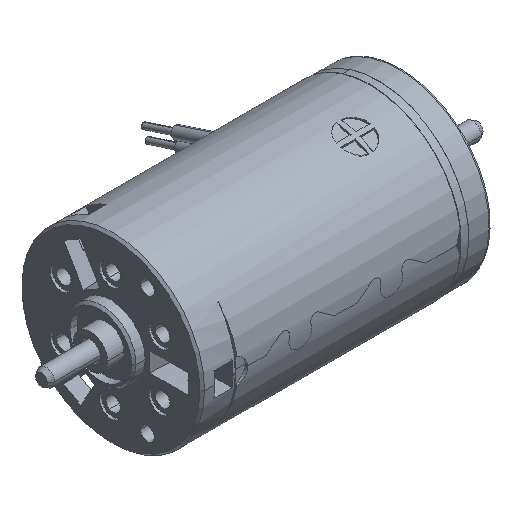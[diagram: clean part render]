
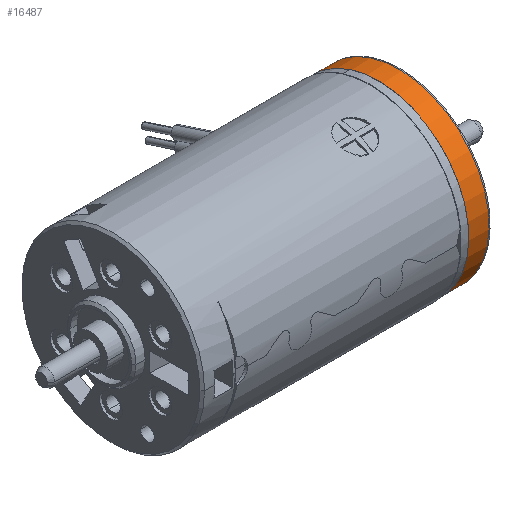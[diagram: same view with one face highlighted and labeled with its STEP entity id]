
A CAD part, isometric view. The second image highlights one B-rep face of the part: STEP entity #16487.
In plain terms, the highlighted cylindrical face has radius 7.95 mm (diameter 15.9 mm), a partial arc.
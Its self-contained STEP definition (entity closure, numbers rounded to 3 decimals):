
#4915=CARTESIAN_POINT('',(23.8,7.88,-1.05));
#4935=DIRECTION('',(-1.,0.,0.));
#4936=VECTOR('',#4935,1.705);
#4937=CARTESIAN_POINT('',(23.8,7.88,-1.05));
#4938=LINE('',#4937,#4936);
#4942=CARTESIAN_POINT('',(23.8,0.,0.));
#4943=DIRECTION('',(-1.,0.,0.));
#4944=DIRECTION('',(0.,0.88,-0.476));
#4945=AXIS2_PLACEMENT_3D('',#4942,#4943,#4944);
#4958=CARTESIAN_POINT('',(22.02,6.861,-4.017));
#4959=CARTESIAN_POINT('',(22.02,6.869,-4.003));
#4960=CARTESIAN_POINT('',(22.021,6.885,-3.976));
#4961=CARTESIAN_POINT('',(22.028,6.908,-3.935));
#4962=CARTESIAN_POINT('',(22.039,6.931,-3.895));
#4963=CARTESIAN_POINT('',(22.053,6.953,-3.855));
#4964=CARTESIAN_POINT('',(22.072,6.973,-3.818));
#4965=CARTESIAN_POINT('',(22.087,6.986,-3.794));
#4966=CARTESIAN_POINT('',(22.095,6.993,-3.782));
#4971=CARTESIAN_POINT('',(22.02,0.,0.));
#4972=DIRECTION('',(-1.,0.,0.));
#4973=DIRECTION('',(0.,0.863,-0.505));
#4974=AXIS2_PLACEMENT_3D('',#4971,#4972,#4973);
#4979=CARTESIAN_POINT('',(22.095,7.88,-1.05));
#4980=CARTESIAN_POINT('',(22.087,7.882,-1.037));
#4981=CARTESIAN_POINT('',(22.072,7.886,-1.01));
#4982=CARTESIAN_POINT('',(22.053,7.891,
-0.967));
#4983=CARTESIAN_POINT('',(22.039,7.896,
-0.923));
#4984=CARTESIAN_POINT('',(22.028,7.901,
-0.877));
#4985=CARTESIAN_POINT('',(22.021,7.907,
-0.83));
#4986=CARTESIAN_POINT('',(22.02,7.91,-0.799));
#4987=CARTESIAN_POINT('',(22.02,7.911,-0.783));
#5007=CARTESIAN_POINT('',(23.8,6.993,-3.782));
#5020=DIRECTION('',(1.,0.,0.));
#5021=VECTOR('',#5020,1.705);
#5022=CARTESIAN_POINT('',(22.095,6.993,-3.782));
#5023=LINE('',#5022,#5021);
#6327=CARTESIAN_POINT('',(22.095,6.993,-3.782));
#9278=CARTESIAN_POINT('',(22.095,7.88,-1.05));
#12571=CARTESIAN_POINT('',(22.02,6.861,-4.017));
#12573=VERTEX_POINT('',#12571);
#12574=CARTESIAN_POINT('',(22.02,7.911,-0.783));
#12576=VERTEX_POINT('',#12574);
#12703=VERTEX_POINT('',#6327);
#12706=VERTEX_POINT('',#9278);
#12936=VERTEX_POINT('',#4915);
#12939=VERTEX_POINT('',#5007);
#16471=CARTESIAN_POINT('',(24.12,0.,0.));
#16472=DIRECTION('',(-1.,0.,0.));
#16473=DIRECTION('',(0.,-0.309,-0.951));
#16474=AXIS2_PLACEMENT_3D('',#16471,#16472,#16473);
#16475=CYLINDRICAL_SURFACE('',#16474,7.95);
#16476=ORIENTED_EDGE('',*,*,#16461,.F.);
#16478=ORIENTED_EDGE('',*,*,#16477,.F.);
#16480=ORIENTED_EDGE('',*,*,#16479,.F.);
#16481=ORIENTED_EDGE('',*,*,#16165,.T.);
#16483=ORIENTED_EDGE('',*,*,#16482,.F.);
#16484=ORIENTED_EDGE('',*,*,#16446,.F.);
#16485=EDGE_LOOP('',(#16476,#16478,#16480,#16481,#16483,#16484));
#16486=FACE_OUTER_BOUND('',#16485,.F.);
#16487=ADVANCED_FACE('',(#16486),#16475,.T.);
#4946=CIRCLE('',#4945,7.95);
#4967=B_SPLINE_CURVE_WITH_KNOTS('',3,(#4958,#4959,#4960,#4961,#4962,#4963,#4964,
#4965,#4966),.UNSPECIFIED.,.F.,.F.,(4,1,1,1,1,1,4),(0.,0.167,
0.333,0.5,0.667,0.833,1.),
.UNSPECIFIED.);
#4975=CIRCLE('',#4974,7.95);
#4988=B_SPLINE_CURVE_WITH_KNOTS('',3,(#4979,#4980,#4981,#4982,#4983,#4984,#4985,
#4986,#4987),.UNSPECIFIED.,.F.,.F.,(4,1,1,1,1,1,4),(0.,0.167,
0.333,0.5,0.667,0.833,1.),
.UNSPECIFIED.);
#16165=EDGE_CURVE('',#12573,#12576,#4975,.T.);
#16446=EDGE_CURVE('',#12936,#12706,#4938,.T.);
#16461=EDGE_CURVE('',#12939,#12936,#4946,.T.);
#16477=EDGE_CURVE('',#12703,#12939,#5023,.T.);
#16479=EDGE_CURVE('',#12573,#12703,#4967,.T.);
#16482=EDGE_CURVE('',#12706,#12576,#4988,.T.);
